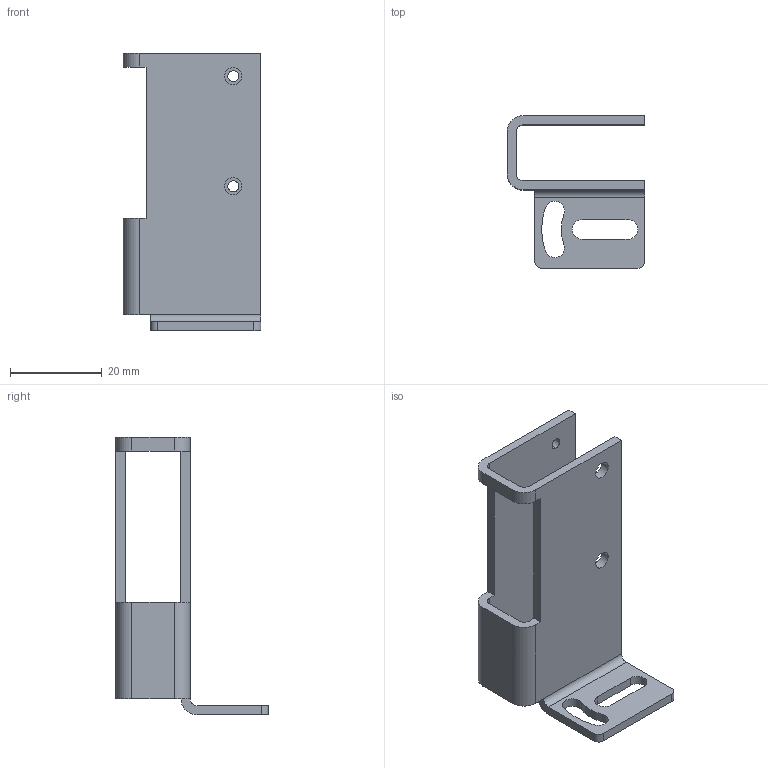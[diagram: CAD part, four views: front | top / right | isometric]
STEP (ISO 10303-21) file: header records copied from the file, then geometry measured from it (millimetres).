
FILE_DESCRIPTION((''),'2;1');
FILE_NAME('15300296 MSP F20.stp','2009-06-25T11:47:54',(''),(''),'Mechanical Desktop 2009','Mechanical Desktop 2009',', , ');
FILE_SCHEMA(('CONFIG_CONTROL_DESIGN'));
Length unit declared in the file: millimetre
Products named in the file (2): 15300296; TEIL1
Assembly tree (1 placements, depth 2):
  15300296
    TEIL1
Bounding box: 30 x 33.2 x 60.5 mm (x, y, z)
Volume: 7315.4 mm3; surface area: 8315.5 mm2
Topology: 1 solids, 1 shells, 48 faces, 142 edges, 94 vertices
Faces by surface type: cylinder 26, plane 22
Entity records: 1759 total; most frequent: DIRECTION 294, CARTESIAN_POINT 286, ORIENTED_EDGE 284, EDGE_CURVE 142, AXIS2_PLACEMENT_3D 102, VERTEX_POINT 94, VECTOR 90, LINE 90
